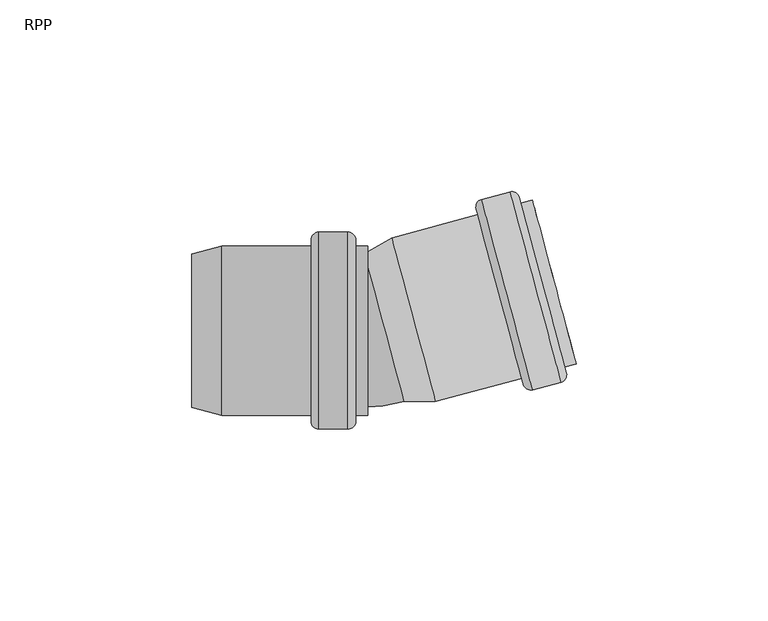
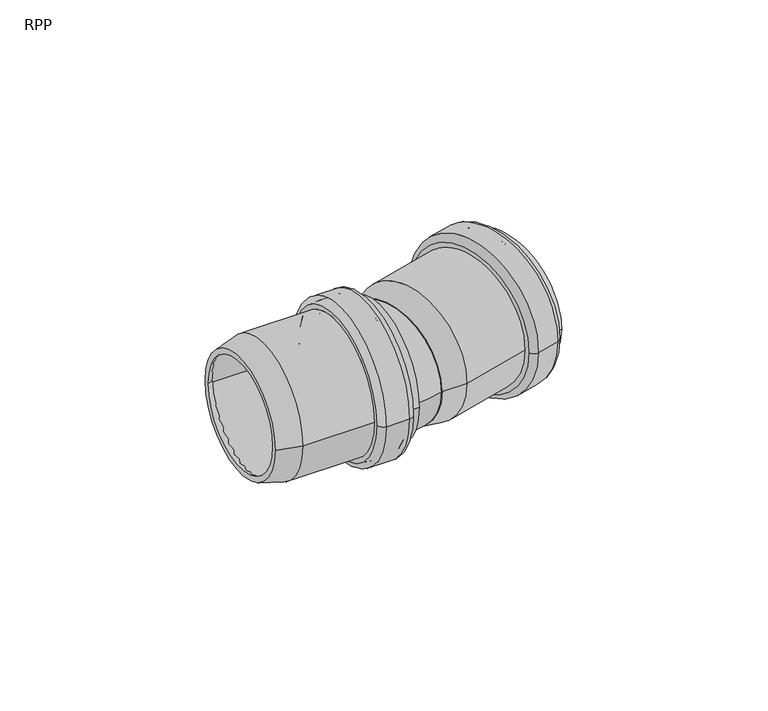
"""IFC4 building model written with IfcOpenShell, lengths in millimetres: pipe fitting geometry, RAUPIANO PLUS Bend : RPP."""

from ifc_helpers import new_model, si_unit, point, frame, origin, place, context, project, spatial, polyline, circle_curve, ellipse_curve, trimmed, source, transform, mapped, element, save
from ifc_brep_helpers import plane_surface, cylinder_surface, revolved_surface, advanced_brep


def rpp_0ef57ba2(model_context):
    return source(origin(), model_context, "Body", "AdvancedBrep", [
        advanced_brep(
        [(-14.2596599, -20.3, 0.0), (-14.2596599, 20.3, 0.0), (-39.0853788, 20.3, 0.0), (-39.0853788, -20.3, 0.0), (-13.7596599, -23.9, 0.0), (-13.7596599, 23.9, 0.0), (-14.2596599, 23.4, 0.0), (-14.2596599, -23.4, 0.0), (-6.7596599, -23.9, 0.0), (-6.7596599, 23.9, 0.0), (-6.2596599, -23.4, 0.0), (-6.2596599, 23.4, 0.0), (-1.3596599, -20.3, 0.0), (-1.3596599, 20.3, 0.0), (-6.2596599, 20.3, 0.0), (-6.2596599, -20.3, 0.0), (-4.4596599, -22.1, 0.0), (-4.4596599, 22.1, 0.0), (-1.3596599, 22.1, 0.0), (-1.3596599, -22.1, 0.0), (-6.4596599, -25.7, 0.0), (-6.4596599, 25.7, 0.0), (-4.4596599, 23.7, 0.0), (-4.4596599, -23.7, 0.0), (-14.0596599, -25.7, 0.0), (-14.0596599, 25.7, 0.0), (-16.0596599, -23.7, 0.0), (-16.0596599, 23.7, 0.0), (-39.3223532, -22.1, 0.0), (-39.3223532, 22.1, 0.0), (-16.0596599, 22.1, 0.0), (-16.0596599, -22.1, 0.0), (-47.1596599, -20.0, 0.0), (-47.1596599, 20.0, 0.0), (-47.1596599, 18.1365029, 0.0), (-47.1596599, -18.1365029, 0.0)],
        [
            (0, 1, circle_curve(frame((-14.2596599, 0.0, 0.0), z_axis=(1.0, 0.0, 0.0), x_axis=(0.0, 1.0, 0.0)), 20.3)),
            (1, 2),
            (2, 3, circle_curve(frame((-39.0853788, 0.0, 0.0), z_axis=(-1.0, 0.0, 0.0), x_axis=(0.0, 1.0, 0.0)), 20.3)),
            (3, 0),
            (4, 5, circle_curve(frame((-13.7596599, 0.0, 0.0), z_axis=(1.0, 0.0, 0.0), x_axis=(0.0, 1.0, 0.0)), 23.9)),
            (5, 6, circle_curve(frame((-13.7596599, 23.4, 0.0), z_axis=(0.0, 0.0, 1.0), x_axis=(0.0, -1.0, 0.0)), 0.5)),
            (6, 7, circle_curve(frame((-14.2596599, 0.0, 0.0), z_axis=(-1.0, 0.0, 0.0), x_axis=(0.0, 1.0, 0.0)), 23.4)),
            (7, 4, circle_curve(frame((-13.7596599, -23.4, 0.0), z_axis=(0.0, 0.0, 1.0), x_axis=(0.0, 1.0, 0.0)), 0.5)),
            (8, 9, circle_curve(frame((-6.7596599, 0.0, 0.0), z_axis=(1.0, 0.0, 0.0), x_axis=(0.0, 1.0, 0.0)), 23.9)),
            (9, 5),
            (4, 8),
            (10, 11, circle_curve(frame((-6.2596599, 0.0, 0.0), z_axis=(1.0, 0.0, 0.0), x_axis=(0.0, 1.0, 0.0)), 23.4)),
            (11, 9, circle_curve(frame((-6.7596599, 23.4, 0.0), z_axis=(0.0, 0.0, 1.0), x_axis=(0.0, -1.0, 0.0)), 0.5)),
            (8, 10, circle_curve(frame((-6.7596599, -23.4, 0.0), z_axis=(0.0, 0.0, 1.0), x_axis=(0.0, 1.0, 0.0)), 0.5)),
            (12, 13, circle_curve(frame((-1.3596599, 0.0, 0.0), z_axis=(1.0, 0.0, 0.0), x_axis=(0.0, 1.0, 0.0)), 20.3)),
            (13, 14),
            (14, 15, circle_curve(frame((-6.2596599, 0.0, 0.0), z_axis=(-1.0, 0.0, 0.0), x_axis=(0.0, 1.0, 0.0)), 20.3)),
            (15, 12),
            (16, 17, circle_curve(frame((-4.4596599, 0.0, 0.0), z_axis=(1.0, 0.0, 0.0), x_axis=(0.0, 1.0, 0.0)), 22.1)),
            (17, 18),
            (18, 19, circle_curve(frame((-1.3596599, 0.0, 0.0), z_axis=(-1.0, 0.0, 0.0), x_axis=(0.0, 1.0, 0.0)), 22.1)),
            (19, 16),
            (20, 21, circle_curve(frame((-6.4596599, 0.0, 0.0), z_axis=(1.0, 0.0, 0.0), x_axis=(0.0, 1.0, 0.0)), 25.7)),
            (21, 22, circle_curve(frame((-6.4596599, 23.7, 0.0), z_axis=(0.0, 0.0, -1.0), x_axis=(0.0, -1.0, 0.0)), 2.0)),
            (22, 23, circle_curve(frame((-4.4596599, 0.0, 0.0), z_axis=(-1.0, 0.0, 0.0), x_axis=(0.0, 1.0, 0.0)), 23.7)),
            (23, 20, circle_curve(frame((-6.4596599, -23.7, 0.0), z_axis=(0.0, 0.0, -1.0), x_axis=(0.0, 1.0, 0.0)), 2.0)),
            (24, 25, circle_curve(frame((-14.0596599, 0.0, 0.0), z_axis=(1.0, 0.0, 0.0), x_axis=(0.0, 1.0, 0.0)), 25.7)),
            (25, 21),
            (20, 24),
            (26, 27, circle_curve(frame((-16.0596599, 0.0, 0.0), z_axis=(1.0, 0.0, 0.0), x_axis=(0.0, 1.0, 0.0)), 23.7)),
            (27, 25, circle_curve(frame((-14.0596599, 23.7, 0.0), z_axis=(0.0, 0.0, -1.0), x_axis=(0.0, -1.0, 0.0)), 2.0)),
            (24, 26, circle_curve(frame((-14.0596599, -23.7, 0.0), z_axis=(0.0, 0.0, -1.0), x_axis=(0.0, 1.0, 0.0)), 2.0)),
            (28, 29, circle_curve(frame((-39.3223532, 0.0, 0.0), z_axis=(1.0, 0.0, 0.0), x_axis=(0.0, 1.0, 0.0)), 22.1)),
            (29, 30),
            (30, 31, circle_curve(frame((-16.0596599, 0.0, 0.0), z_axis=(-1.0, 0.0, 0.0), x_axis=(0.0, 1.0, 0.0)), 22.1)),
            (31, 28),
            (32, 33, circle_curve(frame((-47.1596599, 0.0, 0.0), z_axis=(1.0, 0.0, 0.0), x_axis=(0.0, 1.0, 0.0)), 20.0)),
            (33, 29),
            (28, 32),
            (2, 34),
            (34, 35, circle_curve(frame((-47.1596599, 0.0, 0.0), z_axis=(-1.0, 0.0, 0.0), x_axis=(0.0, 1.0, 0.0)), 18.1365029)),
            (35, 3),
            (1, 0, circle_curve(frame((-14.2596599, 0.0, 0.0), z_axis=(1.0, 0.0, 0.0), x_axis=(0.0, -1.0, 0.0)), 20.3)),
            (3, 2, circle_curve(frame((-39.0853788, 0.0, 0.0), z_axis=(-1.0, 0.0, 0.0), x_axis=(0.0, -1.0, 0.0)), 20.3)),
            (6, 7, circle_curve(frame((-14.2596599, 0.0, 0.0), z_axis=(1.0, 0.0, 0.0), x_axis=(0.0, -1.0, 0.0)), 23.4)),
            (5, 4, circle_curve(frame((-13.7596599, 0.0, 0.0), z_axis=(1.0, 0.0, 0.0), x_axis=(0.0, -1.0, 0.0)), 23.9)),
            (9, 8, circle_curve(frame((-6.7596599, 0.0, 0.0), z_axis=(1.0, 0.0, 0.0), x_axis=(0.0, -1.0, 0.0)), 23.9)),
            (11, 10, circle_curve(frame((-6.2596599, 0.0, 0.0), z_axis=(1.0, 0.0, 0.0), x_axis=(0.0, -1.0, 0.0)), 23.4)),
            (14, 15, circle_curve(frame((-6.2596599, 0.0, 0.0), z_axis=(1.0, 0.0, 0.0), x_axis=(0.0, -1.0, 0.0)), 20.3)),
            (13, 12, circle_curve(frame((-1.3596599, 0.0, 0.0), z_axis=(1.0, 0.0, 0.0), x_axis=(0.0, -1.0, 0.0)), 20.3)),
            (18, 19, circle_curve(frame((-1.3596599, 0.0, 0.0), z_axis=(1.0, 0.0, 0.0), x_axis=(0.0, -1.0, 0.0)), 22.1)),
            (17, 16, circle_curve(frame((-4.4596599, 0.0, 0.0), z_axis=(1.0, 0.0, 0.0), x_axis=(0.0, -1.0, 0.0)), 22.1)),
            (22, 23, circle_curve(frame((-4.4596599, 0.0, 0.0), z_axis=(1.0, 0.0, 0.0), x_axis=(0.0, -1.0, 0.0)), 23.7)),
            (21, 20, circle_curve(frame((-6.4596599, 0.0, 0.0), z_axis=(1.0, 0.0, 0.0), x_axis=(0.0, -1.0, 0.0)), 25.7)),
            (25, 24, circle_curve(frame((-14.0596599, 0.0, 0.0), z_axis=(1.0, 0.0, 0.0), x_axis=(0.0, -1.0, 0.0)), 25.7)),
            (27, 26, circle_curve(frame((-16.0596599, 0.0, 0.0), z_axis=(1.0, 0.0, 0.0), x_axis=(0.0, -1.0, 0.0)), 23.7)),
            (30, 31, circle_curve(frame((-16.0596599, 0.0, 0.0), z_axis=(1.0, 0.0, 0.0), x_axis=(0.0, -1.0, 0.0)), 22.1)),
            (29, 28, circle_curve(frame((-39.3223532, 0.0, 0.0), z_axis=(1.0, 0.0, 0.0), x_axis=(0.0, -1.0, 0.0)), 22.1)),
            (33, 32, circle_curve(frame((-47.1596599, 0.0, 0.0), z_axis=(1.0, 0.0, 0.0), x_axis=(0.0, -1.0, 0.0)), 20.0)),
            (34, 35, circle_curve(frame((-47.1596599, 0.0, 0.0), z_axis=(1.0, 0.0, 0.0), x_axis=(0.0, -1.0, 0.0)), 18.1365029)),
        ],
        [
            revolved_surface(polyline([(-39.0853788, 20.3, 0.0), (-14.259659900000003, 20.3, 0.0)]), (-47.1596599, 0.0, 0.0), (-1.0, 0.0, 0.0)),
            revolved_surface(trimmed(ellipse_curve(frame((-13.7596599, 23.4, 0.0), z_axis=(0.0, 0.0, -1.0), x_axis=(0.0, -1.0, 0.0)), 0.5, 0.5), [point((-14.2596599, 23.4, 0.0))], [point((-13.7596599, 23.9, 0.0))], True, "CARTESIAN"), (-47.1596599, 0.0, 0.0), (-1.0, 0.0, 0.0)),
            revolved_surface(polyline([(-13.759659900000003, 23.9, 0.0), (-6.759659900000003, 23.9, 0.0)]), (-47.1596599, 0.0, 0.0), (-1.0, 0.0, 0.0)),
            revolved_surface(trimmed(ellipse_curve(frame((-6.7596599, 23.4, 0.0), z_axis=(0.0, 0.0, -1.0), x_axis=(0.0, -1.0, 0.0)), 0.5, 0.5), [point((-6.7596599, 23.9, 0.0))], [point((-6.2596599, 23.4, 0.0))], True, "CARTESIAN"), (-47.1596599, 0.0, 0.0), (-1.0, 0.0, 0.0)),
            revolved_surface(polyline([(-6.259659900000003, 20.3, 0.0), (-1.359659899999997, 20.3, 0.0)]), (-47.1596599, 0.0, 0.0), (-1.0, 0.0, 0.0)),
            cylinder_surface(frame((-47.1596599, 0.0, 0.0), z_axis=(-1.0, 0.0, 0.0), x_axis=(0.0, 1.0, 0.0)), 22.1),
            revolved_surface(trimmed(ellipse_curve(frame((-6.4596599, 23.7, 0.0), z_axis=(0.0, 0.0, 1.0), x_axis=(0.0, -1.0, 0.0)), 2.0, 2.0), [point((-4.4596599, 23.7, 0.0))], [point((-6.4596599, 25.7, 0.0))], True, "CARTESIAN"), (-47.1596599, 0.0, 0.0), (-1.0, 0.0, 0.0)),
            cylinder_surface(frame((-47.1596599, 0.0, 0.0), z_axis=(-1.0, 0.0, 0.0), x_axis=(0.0, 1.0, 0.0)), 25.7),
            revolved_surface(trimmed(ellipse_curve(frame((-14.0596599, 23.7, 0.0), z_axis=(0.0, 0.0, 1.0), x_axis=(0.0, -1.0, 0.0)), 2.0, 2.0), [point((-14.0596599, 25.7, 0.0))], [point((-16.0596599, 23.7, 0.0))], True, "CARTESIAN"), (-47.1596599, 0.0, 0.0), (-1.0, 0.0, 0.0)),
            revolved_surface(polyline([(-39.3223532, 22.1, 0.0), (-47.1596599, 20.0, 0.0)]), (-47.1596599, 0.0, 0.0), (-1.0, 0.0, 0.0)),
            revolved_surface(polyline([(-47.1596599, 18.1365029, 0.0), (-39.0853788, 20.3, 0.0)]), (-47.1596599, 0.0, 0.0), (-1.0, 0.0, 0.0)),
            revolved_surface(polyline([(-39.0853788, -20.3, 0.0), (-14.259659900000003, -20.3, 0.0)]), (-47.1596599, 0.0, 0.0), (-1.0, 0.0, 0.0)),
            plane_surface(frame((-14.2596599, 0.0, 0.0), z_axis=(1.0, 0.0, 0.0), x_axis=(0.0, -1.0, 0.0))),
            revolved_surface(trimmed(ellipse_curve(frame((-13.7596599, -23.4, 0.0), z_axis=(0.0, 0.0, 1.0), x_axis=(0.0, 1.0, 0.0)), 0.5, 0.5), [point((-14.2596599, -23.4, 0.0))], [point((-13.7596599, -23.9, 0.0))], True, "CARTESIAN"), (-47.1596599, 0.0, 0.0), (-1.0, 0.0, 0.0)),
            revolved_surface(polyline([(-13.759659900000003, -23.9, 0.0), (-6.759659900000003, -23.9, 0.0)]), (-47.1596599, 0.0, 0.0), (-1.0, 0.0, 0.0)),
            revolved_surface(trimmed(ellipse_curve(frame((-6.7596599, -23.4, 0.0), z_axis=(0.0, 0.0, 1.0), x_axis=(0.0, 1.0, 0.0)), 0.5, 0.5), [point((-6.7596599, -23.9, 0.0))], [point((-6.2596599, -23.4, 0.0))], True, "CARTESIAN"), (-47.1596599, 0.0, 0.0), (-1.0, 0.0, 0.0)),
            plane_surface(frame((-6.2596599, 0.0, 0.0), z_axis=(-1.0, 0.0, 0.0), x_axis=(0.0, -1.0, 0.0))),
            revolved_surface(polyline([(-6.259659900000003, -20.3, 0.0), (-1.359659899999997, -20.3, 0.0)]), (-47.1596599, 0.0, 0.0), (-1.0, 0.0, 0.0)),
            plane_surface(frame((-1.3596599, 0.0, 0.0), z_axis=(1.0, 0.0, 0.0), x_axis=(0.0, -1.0, 0.0))),
            cylinder_surface(frame((-47.1596599, 0.0, 0.0), z_axis=(-1.0, 0.0, 0.0), x_axis=(0.0, -1.0, 0.0)), 22.1),
            plane_surface(frame((-4.4596599, 0.0, 0.0), z_axis=(1.0, 0.0, 0.0), x_axis=(0.0, -1.0, 0.0))),
            revolved_surface(trimmed(ellipse_curve(frame((-6.4596599, -23.7, 0.0), z_axis=(0.0, 0.0, -1.0), x_axis=(0.0, 1.0, 0.0)), 2.0, 2.0), [point((-4.4596599, -23.7, 0.0))], [point((-6.4596599, -25.7, 0.0))], True, "CARTESIAN"), (-47.1596599, 0.0, 0.0), (-1.0, 0.0, 0.0)),
            cylinder_surface(frame((-47.1596599, 0.0, 0.0), z_axis=(-1.0, 0.0, 0.0), x_axis=(0.0, -1.0, 0.0)), 25.7),
            revolved_surface(trimmed(ellipse_curve(frame((-14.0596599, -23.7, 0.0), z_axis=(0.0, 0.0, -1.0), x_axis=(0.0, 1.0, 0.0)), 2.0, 2.0), [point((-14.0596599, -25.7, 0.0))], [point((-16.0596599, -23.7, 0.0))], True, "CARTESIAN"), (-47.1596599, 0.0, 0.0), (-1.0, 0.0, 0.0)),
            plane_surface(frame((-16.0596599, 0.0, 0.0), z_axis=(-1.0, 0.0, 0.0), x_axis=(0.0, -1.0, 0.0))),
            revolved_surface(polyline([(-39.3223532, -22.1, 0.0), (-47.1596599, -20.0, 0.0)]), (-47.1596599, 0.0, 0.0), (-1.0, 0.0, 0.0)),
            plane_surface(frame((-47.1596599, 0.0, 0.0), z_axis=(-1.0, 0.0, 0.0), x_axis=(0.0, -1.0, 0.0))),
            revolved_surface(polyline([(-47.1596599, -18.1365029, 0.0), (-39.0853788, -20.3, 0.0)]), (-47.1596599, 0.0, 0.0), (-1.0, 0.0, 0.0)),
        ],
        [
            (0, [[1, 2, 3, 4]]),
            (1, [[5, 6, 7, 8]]),
            (2, [[9, 10, -5, 11]]),
            (3, [[12, 13, -9, 14]]),
            (4, [[15, 16, 17, 18]]),
            (5, [[19, 20, 21, 22]]),
            (6, [[23, 24, 25, 26]]),
            (7, [[27, 28, -23, 29]]),
            (8, [[30, 31, -27, 32]]),
            (5, [[33, 34, 35, 36]]),
            (9, [[37, 38, -33, 39]]),
            (10, [[-3, 40, 41, 42]]),
            (11, [[43, -4, 44, -2]]),
            (12, [[45, -7], [-43, -1]]),
            (13, [[46, -8, -45, -6]]),
            (14, [[47, -11, -46, -10]]),
            (15, [[48, -14, -47, -13]]),
            (16, [[-48, -12], [49, -17]]),
            (17, [[50, -18, -49, -16]]),
            (18, [[51, -21], [-50, -15]]),
            (19, [[52, -22, -51, -20]]),
            (20, [[53, -25], [-52, -19]]),
            (21, [[54, -26, -53, -24]]),
            (22, [[55, -29, -54, -28]]),
            (23, [[56, -32, -55, -31]]),
            (24, [[-56, -30], [57, -35]]),
            (19, [[58, -36, -57, -34]]),
            (25, [[59, -39, -58, -38]]),
            (26, [[-59, -37], [60, -41]]),
            (27, [[-44, -42, -60, -40]]),
        ],
    ),
        advanced_brep(
        [(7.7460695, -16.7007364, 0.0), (-1.6420752, 18.3362967, 0.0), (5.5971273, 22.5158522, 0.0), (16.1051805, -16.7007364, 0.0), (16.342155, -18.5007364, 0.0), (4.9023532, 24.1931852, 0.0), (-2.1243838, 20.1362967, 0.0), (8.228378, -18.5007364, 0.0), (38.8121912, -12.4799083, 0.0), (27.3723894, 30.2140132, 0.0), (49.0168277, -13.4725784, 0.0), (35.7135288, 36.176009, 0.0), (28.3724925, 34.2089843, 0.0), (41.6757914, -15.4396032, 0.0), (53.0113009, -8.6752683, 0.0), (41.5714991, 34.0186532, 0.0), (38.577129, 33.2163142, 0.0), (50.0169308, -9.4776074, 0.0), (47.8123901, -8.2048152, 0.0), (37.3043368, 31.0117734, 0.0), (42.0373734, 32.2799867, 0.0), (52.5454266, -6.9366018, 0.0), (41.4996949, -13.623291, 0.0), (29.1281446, 32.5479635, 0.0), (35.8896253, 34.3596968, 0.0), (48.2611757, -11.8115577, 0.0), (29.5769302, 28.941221, 0.0), (40.0849834, -10.2753675, 0.0), (26.958279, 31.7594946, 0.0), (39.2263017, -14.0253896, 0.0), (50.4310413, -11.0230887, 0.0), (38.1630186, 34.7617955, 0.0), (36.5019978, 34.0061434, 0.0), (48.6147291, -11.1991852, 0.0), (40.8873225, -13.2697376, 0.0), (28.7745912, 31.9355911, 0.0)],
        [
            (0, 1, circle_curve(frame((3.0519971, 0.8177802, 0.0), z_axis=(-0.965925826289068, -0.25881904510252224, 0.0), x_axis=(-0.25881904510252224, 0.965925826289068, 0.0)), 18.1365029)),
            (1, 2),
            (2, 3, circle_curve(frame((10.8511539, 2.9075579, 0.0), z_axis=(0.965925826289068, 0.25881904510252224, 0.0), x_axis=(-0.25881904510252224, 0.965925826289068, 0.0)), 20.3)),
            (3, 0),
            (4, 5, circle_curve(frame((10.6222541, 2.8462244, 0.0), z_axis=(-0.965925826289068, -0.25881904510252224, 0.0), x_axis=(-0.25881904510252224, 0.965925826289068, 0.0)), 22.1)),
            (5, 6),
            (6, 7, circle_curve(frame((3.0519971, 0.8177802, 0.0), z_axis=(0.965925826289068, 0.25881904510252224, 0.0), x_axis=(-0.25881904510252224, 0.965925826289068, 0.0)), 20.0)),
            (7, 4),
            (8, 9, circle_curve(frame((33.0922903, 8.8670525, 0.0), z_axis=(-0.965925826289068, -0.25881904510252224, 0.0), x_axis=(-0.25881904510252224, 0.965925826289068, 0.0)), 22.1)),
            (9, 5),
            (4, 8),
            (10, 11, circle_curve(frame((42.3651783, 11.3517153, 0.0), z_axis=(-0.965925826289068, -0.25881904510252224, 0.0), x_axis=(-0.25881904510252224, 0.965925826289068, 0.0)), 25.7)),
            (11, 12),
            (12, 13, circle_curve(frame((35.024142, 9.3846906, 0.0), z_axis=(0.965925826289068, 0.25881904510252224, 0.0), x_axis=(-0.25881904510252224, 0.965925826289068, 0.0)), 25.7)),
            (13, 10),
            (14, 15, circle_curve(frame((47.2914, 12.6716924, 0.0), z_axis=(-0.965925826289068, -0.25881904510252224, 0.0), x_axis=(-0.25881904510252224, 0.965925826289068, 0.0)), 22.1)),
            (15, 16),
            (16, 17, circle_curve(frame((44.2970299, 11.8693534, 0.0), z_axis=(0.965925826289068, 0.25881904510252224, 0.0), x_axis=(-0.25881904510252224, 0.965925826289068, 0.0)), 22.1)),
            (17, 14),
            (18, 19, circle_curve(frame((42.5583634, 11.4034791, 0.0), z_axis=(-0.965925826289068, -0.25881904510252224, 0.0), x_axis=(-0.25881904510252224, 0.965925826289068, 0.0)), 20.3)),
            (19, 20),
            (20, 21, circle_curve(frame((47.2914, 12.6716924, 0.0), z_axis=(0.965925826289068, 0.25881904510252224, 0.0), x_axis=(-0.25881904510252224, 0.965925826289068, 0.0)), 20.3)),
            (21, 18),
            (22, 23, circle_curve(frame((35.3139197, 9.4623363, 0.0), z_axis=(-0.965925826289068, -0.25881904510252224, 0.0), x_axis=(-0.25881904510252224, 0.965925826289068, 0.0)), 23.9)),
            (23, 24),
            (24, 25, circle_curve(frame((42.0754005, 11.2740696, 0.0), z_axis=(0.965925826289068, 0.25881904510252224, 0.0), x_axis=(-0.25881904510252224, 0.965925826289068, 0.0)), 23.9)),
            (25, 22),
            (2, 26),
            (26, 27, circle_curve(frame((34.8309568, 9.3329268, 0.0), z_axis=(0.965925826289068, 0.25881904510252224, 0.0), x_axis=(-0.25881904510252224, 0.965925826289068, 0.0)), 20.3)),
            (27, 3),
            (1, 0, circle_curve(frame((3.0519971, 0.8177802, 0.0), z_axis=(-0.965925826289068, -0.25881904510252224, 0.0), x_axis=(0.25881904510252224, -0.965925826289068, 0.0)), 18.1365029)),
            (3, 2, circle_curve(frame((10.8511539, 2.9075579, 0.0), z_axis=(0.965925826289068, 0.25881904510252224, 0.0), x_axis=(0.25881904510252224, -0.965925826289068, 0.0)), 20.3)),
            (6, 7, circle_curve(frame((3.0519971, 0.8177802, 0.0), z_axis=(-0.965925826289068, -0.25881904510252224, 0.0), x_axis=(0.25881904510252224, -0.965925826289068, 0.0)), 20.0)),
            (5, 4, circle_curve(frame((10.6222541, 2.8462244, 0.0), z_axis=(-0.965925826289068, -0.25881904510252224, 0.0), x_axis=(0.25881904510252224, -0.965925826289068, 0.0)), 22.1)),
            (9, 8, circle_curve(frame((33.0922903, 8.8670525, 0.0), z_axis=(-0.965925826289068, -0.25881904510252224, 0.0), x_axis=(0.25881904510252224, -0.965925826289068, 0.0)), 22.1)),
            (28, 29, circle_curve(frame((33.0922903, 8.8670525, 0.0), z_axis=(-0.965925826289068, -0.25881904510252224, 0.0), x_axis=(0.25881904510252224, -0.965925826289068, 0.0)), 23.7)),
            (29, 28, circle_curve(frame((33.0922903, 8.8670525, 0.0), z_axis=(-0.965925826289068, -0.25881904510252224, 0.0), x_axis=(-0.25881904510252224, 0.965925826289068, 0.0)), 23.7)),
            (11, 10, circle_curve(frame((42.3651783, 11.3517153, 0.0), z_axis=(-0.965925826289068, -0.25881904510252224, 0.0), x_axis=(0.25881904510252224, -0.965925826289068, 0.0)), 25.7)),
            (13, 12, circle_curve(frame((35.024142, 9.3846906, 0.0), z_axis=(0.965925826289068, 0.25881904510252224, 0.0), x_axis=(0.25881904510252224, -0.965925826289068, 0.0)), 25.7)),
            (30, 31, circle_curve(frame((44.2970299, 11.8693534, 0.0), z_axis=(0.965925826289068, 0.25881904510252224, 0.0), x_axis=(0.25881904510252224, -0.965925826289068, 0.0)), 23.7)),
            (31, 30, circle_curve(frame((44.2970299, 11.8693534, 0.0), z_axis=(0.965925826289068, 0.25881904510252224, 0.0), x_axis=(-0.25881904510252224, 0.965925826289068, 0.0)), 23.7)),
            (16, 17, circle_curve(frame((44.2970299, 11.8693534, 0.0), z_axis=(-0.965925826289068, -0.25881904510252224, 0.0), x_axis=(0.25881904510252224, -0.965925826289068, 0.0)), 22.1)),
            (15, 14, circle_curve(frame((47.2914, 12.6716924, 0.0), z_axis=(-0.965925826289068, -0.25881904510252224, 0.0), x_axis=(0.25881904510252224, -0.965925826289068, 0.0)), 22.1)),
            (20, 21, circle_curve(frame((47.2914, 12.6716924, 0.0), z_axis=(-0.965925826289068, -0.25881904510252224, 0.0), x_axis=(0.25881904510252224, -0.965925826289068, 0.0)), 20.3)),
            (19, 18, circle_curve(frame((42.5583634, 11.4034791, 0.0), z_axis=(-0.965925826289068, -0.25881904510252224, 0.0), x_axis=(0.25881904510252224, -0.965925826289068, 0.0)), 20.3)),
            (32, 33, circle_curve(frame((42.5583634, 11.4034791, 0.0), z_axis=(-0.965925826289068, -0.25881904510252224, 0.0), x_axis=(0.25881904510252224, -0.965925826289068, 0.0)), 23.4)),
            (33, 32, circle_curve(frame((42.5583634, 11.4034791, 0.0), z_axis=(-0.965925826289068, -0.25881904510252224, 0.0), x_axis=(-0.25881904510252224, 0.965925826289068, 0.0)), 23.4)),
            (23, 22, circle_curve(frame((35.3139197, 9.4623363, 0.0), z_axis=(-0.965925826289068, -0.25881904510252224, 0.0), x_axis=(0.25881904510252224, -0.965925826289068, 0.0)), 23.9)),
            (25, 24, circle_curve(frame((42.0754005, 11.2740696, 0.0), z_axis=(0.965925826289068, 0.25881904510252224, 0.0), x_axis=(0.25881904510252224, -0.965925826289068, 0.0)), 23.9)),
            (34, 35, circle_curve(frame((34.8309568, 9.3329268, 0.0), z_axis=(0.965925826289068, 0.25881904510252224, 0.0), x_axis=(0.25881904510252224, -0.965925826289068, 0.0)), 23.4)),
            (35, 34, circle_curve(frame((34.8309568, 9.3329268, 0.0), z_axis=(0.965925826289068, 0.25881904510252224, 0.0), x_axis=(-0.25881904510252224, 0.965925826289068, 0.0)), 23.4)),
            (26, 27, circle_curve(frame((34.8309568, 9.3329268, 0.0), z_axis=(-0.965925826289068, -0.25881904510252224, 0.0), x_axis=(0.25881904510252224, -0.965925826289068, 0.0)), 20.3)),
            (12, 28, circle_curve(frame((28.8901306, 32.2771326, 0.0), z_axis=(0.0, 0.0, 1.0000000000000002), x_axis=(0.25881904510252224, -0.965925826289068, 0.0)), 2.0)),
            (29, 13, circle_curve(frame((41.1581534, -13.5077515, 0.0), z_axis=(0.0, 0.0, 1.0000000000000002), x_axis=(-0.25881904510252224, 0.965925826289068, 0.0)), 2.0)),
            (31, 11, circle_curve(frame((36.2311669, 34.2441574, 0.0), z_axis=(0.0, 0.0, 1.0000000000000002), x_axis=(0.25881904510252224, -0.965925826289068, 0.0)), 2.0)),
            (10, 30, circle_curve(frame((48.4991896, -11.5407268, 0.0), z_axis=(0.0, 0.0, 1.0000000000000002), x_axis=(-0.25881904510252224, 0.965925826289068, 0.0)), 2.0)),
            (24, 32, circle_curve(frame((36.0190349, 33.8767339, 0.0), z_axis=(0.0, 0.0, -1.0000000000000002), x_axis=(0.25881904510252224, -0.965925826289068, 0.0)), 0.5)),
            (33, 25, circle_curve(frame((48.1317662, -11.3285947, 0.0), z_axis=(0.0, 0.0, -1.0000000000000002), x_axis=(-0.25881904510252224, 0.965925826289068, 0.0)), 0.5)),
            (35, 23, circle_curve(frame((29.2575541, 32.0650006, 0.0), z_axis=(0.0, 0.0, -1.0000000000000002), x_axis=(0.25881904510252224, -0.965925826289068, 0.0)), 0.5)),
            (22, 34, circle_curve(frame((41.3702854, -13.1403281, 0.0), z_axis=(0.0, 0.0, -1.0000000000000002), x_axis=(-0.25881904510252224, 0.965925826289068, 0.0)), 0.5)),
        ],
        [
            revolved_surface(polyline([(5.5971273, 22.5158522, 0.0), (-1.6420752, 18.3362967, 0.0)]), (3.0519971, 0.8177802, 0.0), (0.965925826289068, 0.25881904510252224, 0.0)),
            revolved_surface(polyline([(-2.1243838, 20.1362967, 0.0), (4.9023532, 24.1931852, 0.0)]), (3.0519971, 0.8177802, 0.0), (0.965925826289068, 0.25881904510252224, 0.0)),
            cylinder_surface(frame((3.0519971, 0.8177802, 0.0), z_axis=(0.965925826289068, 0.25881904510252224, 0.0), x_axis=(-0.25881904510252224, 0.965925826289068, 0.0)), 22.1),
            cylinder_surface(frame((3.0519971, 0.8177802, 0.0), z_axis=(0.965925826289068, 0.25881904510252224, 0.0), x_axis=(-0.25881904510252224, 0.965925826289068, 0.0)), 25.7),
            revolved_surface(polyline([(42.037373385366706, 32.27998675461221, 0.0), (37.3043367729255, 31.011773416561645, 0.0)]), (3.0519971, 0.8177802, 0.0), (0.965925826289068, 0.25881904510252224, 0.0)),
            revolved_surface(polyline([(35.889625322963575, 34.35969687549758, 0.0), (29.128144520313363, 32.54796355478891, 0.0)]), (3.0519971, 0.8177802, 0.0), (0.965925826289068, 0.25881904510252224, 0.0)),
            revolved_surface(polyline([(29.576930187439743, 28.941221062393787, 0.0), (5.59712724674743, 22.515852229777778, 0.0)]), (3.0519971, 0.8177802, 0.0), (0.965925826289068, 0.25881904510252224, 0.0)),
            revolved_surface(polyline([(16.1051805, -16.7007364, 0.0), (7.7460695, -16.7007364, 0.0)]), (3.0519971, 0.8177802, 0.0), (0.965925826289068, 0.25881904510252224, 0.0)),
            plane_surface(frame((3.0519971, 0.8177802, 0.0), z_axis=(-0.965925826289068, -0.25881904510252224, 0.0), x_axis=(0.25881904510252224, -0.965925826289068, 0.0))),
            revolved_surface(polyline([(8.228378, -18.5007364, 0.0), (16.342155, -18.5007364, 0.0)]), (3.0519971, 0.8177802, 0.0), (0.965925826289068, 0.25881904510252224, 0.0)),
            cylinder_surface(frame((3.0519971, 0.8177802, 0.0), z_axis=(0.965925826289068, 0.25881904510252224, 0.0), x_axis=(0.25881904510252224, -0.965925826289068, 0.0)), 22.1),
            plane_surface(frame((33.0922903, 8.8670525, 0.0), z_axis=(-0.965925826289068, -0.25881904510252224, 0.0), x_axis=(0.25881904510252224, -0.965925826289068, 0.0))),
            cylinder_surface(frame((3.0519971, 0.8177802, 0.0), z_axis=(0.965925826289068, 0.25881904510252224, 0.0), x_axis=(0.25881904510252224, -0.965925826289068, 0.0)), 25.7),
            plane_surface(frame((44.2970299, 11.8693534, 0.0), z_axis=(0.965925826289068, 0.25881904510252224, 0.0), x_axis=(0.25881904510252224, -0.965925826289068, 0.0))),
            plane_surface(frame((47.2914, 12.6716924, 0.0), z_axis=(0.965925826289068, 0.25881904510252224, 0.0), x_axis=(0.25881904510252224, -0.965925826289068, 0.0))),
            revolved_surface(polyline([(52.54542661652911, -6.936601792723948, 0.0), (47.8123900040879, -8.204815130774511, 0.0)]), (3.0519971, 0.8177802, 0.0), (0.965925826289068, 0.25881904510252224, 0.0)),
            plane_surface(frame((42.5583634, 11.4034791, 0.0), z_axis=(-0.965925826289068, -0.25881904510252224, 0.0), x_axis=(0.25881904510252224, -0.965925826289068, 0.0))),
            revolved_surface(polyline([(48.261175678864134, -11.811557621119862, 0.0), (41.49969487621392, -13.623290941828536, 0.0)]), (3.0519971, 0.8177802, 0.0), (0.965925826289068, 0.25881904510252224, 0.0)),
            plane_surface(frame((34.8309568, 9.3329268, 0.0), z_axis=(0.965925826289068, 0.25881904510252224, 0.0), x_axis=(0.25881904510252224, -0.965925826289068, 0.0))),
            revolved_surface(polyline([(40.08498341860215, -10.275367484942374, 0.0), (16.105180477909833, -16.70073631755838, 0.0)]), (3.0519971, 0.8177802, 0.0), (0.965925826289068, 0.25881904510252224, 0.0)),
            revolved_surface(trimmed(ellipse_curve(frame((28.8901306, 32.2771326, 0.0), z_axis=(0.0, 0.0, -1.0000000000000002), x_axis=(0.25881904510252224, -0.965925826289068, 0.0)), 2.0, 2.0), [point((26.958279, 31.7594946, 0.0))], [point((28.3724925, 34.2089843, 0.0))], True, "CARTESIAN"), (3.0519971, 0.8177802, 0.0), (0.965925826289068, 0.25881904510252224, 0.0)),
            revolved_surface(trimmed(ellipse_curve(frame((36.2311669, 34.2441574, 0.0), z_axis=(0.0, 0.0, -1.0000000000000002), x_axis=(0.25881904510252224, -0.965925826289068, 0.0)), 2.0, 2.0), [point((35.7135288, 36.176009, 0.0))], [point((38.1630186, 34.7617955, 0.0))], True, "CARTESIAN"), (3.0519971, 0.8177802, 0.0), (0.965925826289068, 0.25881904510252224, 0.0)),
            revolved_surface(trimmed(ellipse_curve(frame((36.0190349, 33.8767339, 0.0), z_axis=(0.0, 0.0, 1.0000000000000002), x_axis=(0.25881904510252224, -0.965925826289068, 0.0)), 0.5, 0.5), [point((36.5019978, 34.0061434, 0.0))], [point((35.8896253, 34.3596968, 0.0))], True, "CARTESIAN"), (3.0519971, 0.8177802, 0.0), (0.965925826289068, 0.25881904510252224, 0.0)),
            revolved_surface(trimmed(ellipse_curve(frame((29.2575541, 32.0650006, 0.0), z_axis=(0.0, 0.0, 1.0000000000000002), x_axis=(0.25881904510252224, -0.965925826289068, 0.0)), 0.5, 0.5), [point((29.1281446, 32.5479635, 0.0))], [point((28.7745912, 31.9355911, 0.0))], True, "CARTESIAN"), (3.0519971, 0.8177802, 0.0), (0.965925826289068, 0.25881904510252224, 0.0)),
            revolved_surface(trimmed(ellipse_curve(frame((41.1581534, -13.5077515, 0.0), z_axis=(0.0, 0.0, 1.0000000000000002), x_axis=(-0.2588190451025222, 0.965925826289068, 0.0)), 2.0, 2.0), [point((39.2263017, -14.0253896, 0.0))], [point((41.6757914, -15.4396032, 0.0))], True, "CARTESIAN"), (3.0519971, 0.8177802, 0.0), (0.965925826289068, 0.25881904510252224, 0.0)),
            revolved_surface(trimmed(ellipse_curve(frame((48.4991896, -11.5407268, 0.0), z_axis=(0.0, 0.0, 1.0000000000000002), x_axis=(-0.2588190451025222, 0.965925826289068, 0.0)), 2.0, 2.0), [point((49.0168277, -13.4725784, 0.0))], [point((50.4310413, -11.0230887, 0.0))], True, "CARTESIAN"), (3.0519971, 0.8177802, 0.0), (0.965925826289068, 0.25881904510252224, 0.0)),
            revolved_surface(trimmed(ellipse_curve(frame((48.1317662, -11.3285947, 0.0), z_axis=(0.0, 0.0, -1.0000000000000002), x_axis=(-0.2588190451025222, 0.965925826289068, 0.0)), 0.5, 0.5), [point((48.6147291, -11.1991852, 0.0))], [point((48.2611757, -11.8115577, 0.0))], True, "CARTESIAN"), (3.0519971, 0.8177802, 0.0), (0.965925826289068, 0.25881904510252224, 0.0)),
            revolved_surface(trimmed(ellipse_curve(frame((41.3702854, -13.1403281, 0.0), z_axis=(0.0, 0.0, -1.0000000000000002), x_axis=(-0.2588190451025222, 0.965925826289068, 0.0)), 0.5, 0.5), [point((41.4996949, -13.623291, 0.0))], [point((40.8873225, -13.2697376, 0.0))], True, "CARTESIAN"), (3.0519971, 0.8177802, 0.0), (0.965925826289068, 0.25881904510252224, 0.0)),
        ],
        [
            (0, [[1, 2, 3, 4]]),
            (1, [[5, 6, 7, 8]]),
            (2, [[9, 10, -5, 11]]),
            (3, [[12, 13, 14, 15]]),
            (2, [[16, 17, 18, 19]]),
            (4, [[20, 21, 22, 23]]),
            (5, [[24, 25, 26, 27]]),
            (6, [[-3, 28, 29, 30]]),
            (7, [[31, -4, 32, -2]]),
            (8, [[33, -7], [-31, -1]]),
            (9, [[34, -8, -33, -6]]),
            (10, [[35, -11, -34, -10]]),
            (11, [[36, 37], [-35, -9]]),
            (12, [[38, -15, 39, -13]]),
            (13, [[40, 41], [42, -18]]),
            (10, [[43, -19, -42, -17]]),
            (14, [[-43, -16], [44, -22]]),
            (15, [[45, -23, -44, -21]]),
            (16, [[46, 47], [-45, -20]]),
            (17, [[48, -27, 49, -25]]),
            (18, [[50, 51], [52, -29]]),
            (19, [[-32, -30, -52, -28]]),
            (20, [[-14, 53, -37, 54]]),
            (21, [[-41, 55, -12, 56]]),
            (22, [[-26, 57, -47, 58]]),
            (23, [[-51, 59, -24, 60]]),
            (24, [[-39, -54, -36, -53]]),
            (25, [[-40, -56, -38, -55]]),
            (26, [[-49, -58, -46, -57]]),
            (27, [[-50, -60, -48, -59]]),
        ],
    ),
        advanced_brep(
        [(-3.1596599, 18.2, 0.0), (-3.1596599, -18.2, 0.0), (-47.1596599, -18.2, 0.0), (-47.1596599, 18.2, 0.0), (-43.4276091, 20.0, 0.0), (-43.4276091, -20.0, 0.0), (-3.1596599, -20.0, 0.0), (-3.1596599, 20.0, 0.0), (-47.1596599, 19.0, 0.0), (-47.1596599, -19.0, 0.0)],
        [
            (0, 1, circle_curve(frame((-3.1596599, 0.0, 0.0), z_axis=(1.0, 0.0, 0.0), x_axis=(0.0, -1.0, 0.0)), 18.2)),
            (1, 2),
            (2, 3, circle_curve(frame((-47.1596599, 0.0, 0.0), z_axis=(-1.0, 0.0, 0.0), x_axis=(0.0, -1.0, 0.0)), 18.2)),
            (3, 0),
            (4, 5, circle_curve(frame((-43.4276091, 0.0, 0.0), z_axis=(1.0, 0.0, 0.0), x_axis=(0.0, -1.0, 0.0)), 20.0)),
            (5, 6),
            (6, 7, circle_curve(frame((-3.1596599, 0.0, 0.0), z_axis=(-1.0, 0.0, 0.0), x_axis=(0.0, -1.0, 0.0)), 20.0)),
            (7, 4),
            (8, 9, circle_curve(frame((-47.1596599, 0.0, 0.0), z_axis=(1.0, 0.0, 0.0), x_axis=(0.0, -1.0, 0.0)), 19.0)),
            (9, 5),
            (4, 8),
            (1, 0, circle_curve(frame((-3.1596599, 0.0, 0.0), z_axis=(1.0, 0.0, 0.0), x_axis=(0.0, 1.0, 0.0)), 18.2)),
            (3, 2, circle_curve(frame((-47.1596599, 0.0, 0.0), z_axis=(-1.0, 0.0, 0.0), x_axis=(0.0, 1.0, 0.0)), 18.2)),
            (6, 7, circle_curve(frame((-3.1596599, 0.0, 0.0), z_axis=(1.0, 0.0, 0.0), x_axis=(0.0, 1.0, 0.0)), 20.0)),
            (5, 4, circle_curve(frame((-43.4276091, 0.0, 0.0), z_axis=(1.0, 0.0, 0.0), x_axis=(0.0, 1.0, 0.0)), 20.0)),
            (9, 8, circle_curve(frame((-47.1596599, 0.0, 0.0), z_axis=(1.0, 0.0, 0.0), x_axis=(0.0, 1.0, 0.0)), 19.0)),
        ],
        [
            revolved_surface(polyline([(-47.1596599, -18.2, 0.0), (-3.1596599, -18.2, 0.0)]), (-3.1596599, 0.0, 0.0), (-1.0, 0.0, 0.0)),
            cylinder_surface(frame((-3.1596599, 0.0, 0.0), z_axis=(-1.0, 0.0, 0.0), x_axis=(0.0, -1.0, 0.0)), 20.0),
            revolved_surface(polyline([(-43.4276091, -20.0, 0.0), (-47.1596599, -19.0, 0.0)]), (-3.1596599, 0.0, 0.0), (-1.0, 0.0, 0.0)),
            revolved_surface(polyline([(-47.1596599, 18.2, 0.0), (-3.1596599, 18.2, 0.0)]), (-3.1596599, 0.0, 0.0), (-1.0, 0.0, 0.0)),
            plane_surface(frame((-3.1596599, 0.0, 0.0), z_axis=(1.0, 0.0, 0.0), x_axis=(0.0, 1.0, 0.0))),
            cylinder_surface(frame((-3.1596599, 0.0, 0.0), z_axis=(-1.0, 0.0, 0.0), x_axis=(0.0, 1.0, 0.0)), 20.0),
            revolved_surface(polyline([(-43.4276091, 20.0, 0.0), (-47.1596599, 19.0, 0.0)]), (-3.1596599, 0.0, 0.0), (-1.0, 0.0, 0.0)),
            plane_surface(frame((-47.1596599, 0.0, 0.0), z_axis=(-1.0, 0.0, 0.0), x_axis=(0.0, 1.0, 0.0))),
        ],
        [
            (0, [[1, 2, 3, 4]]),
            (1, [[5, 6, 7, 8]]),
            (2, [[9, 10, -5, 11]]),
            (3, [[12, -4, 13, -2]]),
            (4, [[14, -7], [-12, -1]]),
            (5, [[15, -8, -14, -6]]),
            (6, [[16, -11, -15, -10]]),
            (7, [[-16, -9], [-13, -3]]),
        ],
    ),
        advanced_brep(
        [(-3.1596599, -20.0, 0.0), (-3.1596599, 20.0, 0.0), (-3.1596599, -18.2, 0.0), (-3.1596599, 18.2, 0.0), (8.228378, -18.5007364, 0.0), (-2.1243838, 20.1362967, 0.0), (7.7625038, -16.7620699, 0.0), (-1.6585095, 18.3976302, 0.0)],
        [
            (0, 1, circle_curve(frame((-3.1596599, 0.0, 0.0), z_axis=(-1.0, 0.0, 0.0), x_axis=(0.0, 1.0, 0.0)), 20.0)),
            (1, 0, circle_curve(frame((-3.1596599, 0.0, 0.0), z_axis=(-1.0, 0.0, 0.0), x_axis=(0.0, 1.0, 0.0)), 20.0)),
            (2, 3, circle_curve(frame((-3.1596599, 0.0, 0.0), z_axis=(1.0, 0.0, 0.0), x_axis=(0.0, 1.0, 0.0)), 18.2)),
            (3, 2, circle_curve(frame((-3.1596599, 0.0, 0.0), z_axis=(1.0, 0.0, 0.0), x_axis=(0.0, 1.0, 0.0)), 18.2)),
            (4, 5, circle_curve(frame((3.0519971, 0.8177802, 0.0), z_axis=(0.9659258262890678, 0.25881904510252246, 0.0), x_axis=(-0.25881904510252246, 0.9659258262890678, 0.0)), 20.0)),
            (5, 4, circle_curve(frame((3.0519971, 0.8177802, 0.0), z_axis=(0.9659258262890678, 0.25881904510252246, 0.0), x_axis=(-0.25881904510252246, 0.9659258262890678, 0.0)), 20.0)),
            (6, 7, circle_curve(frame((3.0519971, 0.8177802, 0.0), z_axis=(-0.9659258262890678, -0.25881904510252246, 0.0), x_axis=(-0.25881904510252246, 0.9659258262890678, 0.0)), 18.2)),
            (7, 6, circle_curve(frame((3.0519971, 0.8177802, 0.0), z_axis=(-0.9659258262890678, -0.25881904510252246, 0.0), x_axis=(-0.25881904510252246, 0.9659258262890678, 0.0)), 18.2)),
            (7, 3, circle_curve(frame((-3.1596599, 24.0, 0.0), z_axis=(0.0, 0.0, -1.0), x_axis=(0.0, -1.0, 0.0)), 5.8)),
            (2, 6, circle_curve(frame((-3.1596599, 24.0, 0.0), z_axis=(0.0, 0.0, 1.0), x_axis=(0.0, -1.0, 0.0)), 42.2)),
            (5, 1, circle_curve(frame((-3.1596599, 24.0, 0.0), z_axis=(0.0, 0.0, -1.0), x_axis=(0.0, -1.0, 0.0)), 4.0)),
            (0, 4, circle_curve(frame((-3.1596599, 24.0, 0.0), z_axis=(0.0, 0.0, 1.0), x_axis=(0.0, -1.0, 0.0)), 44.0)),
        ],
        [
            plane_surface(frame((-3.1596599, 0.0, 0.0), z_axis=(-1.0, 0.0, 0.0), x_axis=(0.0, 0.0, 1.0))),
            plane_surface(frame((3.0519971, 0.8177802, 0.0), z_axis=(0.9659258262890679, 0.2588190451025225, 0.0), x_axis=(0.0, 0.0, 1.0))),
            revolved_surface(trimmed(ellipse_curve(frame((-3.1596599, 0.0, 0.0), z_axis=(1.0, 0.0, 0.0), x_axis=(0.0, 1.0, 0.0)), 18.2, 18.2), [point((-3.1596599, -18.2, 0.0))], [point((-3.1596599, 18.2, 0.0))], True, "CARTESIAN"), (-3.1596599, 24.0, 0.0), (0.0, 0.0, 1.0)),
            revolved_surface(trimmed(ellipse_curve(frame((-3.1596599, 0.0, 0.0), z_axis=(1.0, 0.0, 0.0), x_axis=(0.0, 1.0, 0.0)), 18.2, 18.2), [point((-3.1596599, 18.2, 0.0))], [point((-3.1596599, -18.2, 0.0))], True, "CARTESIAN"), (-3.1596599, 24.0, 0.0), (0.0, 0.0, 1.0)),
            revolved_surface(trimmed(ellipse_curve(frame((-3.1596599, 0.0, 0.0), z_axis=(-1.0, 0.0, 0.0), x_axis=(0.0, 1.0, 0.0)), 20.0, 20.0), [point((-3.1596599, -20.0, 0.0))], [point((-3.1596599, 20.0, 0.0))], True, "CARTESIAN"), (-3.1596599, 24.0, 0.0), (0.0, 0.0, 1.0)),
            revolved_surface(trimmed(ellipse_curve(frame((-3.1596599, 0.0, 0.0), z_axis=(-1.0, 0.0, 0.0), x_axis=(0.0, 1.0, 0.0)), 20.0, 20.0), [point((-3.1596599, 20.0, 0.0))], [point((-3.1596599, -20.0, 0.0))], True, "CARTESIAN"), (-3.1596599, 24.0, 0.0), (0.0, 0.0, 1.0)),
        ],
        [
            (0, [[1, 2], [3, 4]]),
            (1, [[5, 6], [7, 8]]),
            (2, [[9, -3, 10, -8]]),
            (3, [[-10, -4, -9, -7]]),
            (4, [[11, -1, 12, -6]]),
            (5, [[-12, -2, -11, -5]]),
        ],
    ),
    ])


if __name__ == "__main__":
    model = new_model("IFC4")
    model_context = context("Model", 3, world=origin())
    ifc_project = project(units=[si_unit("LENGTHUNIT", "METRE", prefix="MILLI")], contexts=[model_context])
    site = spatial("IfcSite", under=ifc_project)
    building = spatial("IfcBuilding", under=site)
    placement = place(None, origin())
    rpp_shape = rpp_0ef57ba2(model_context)
    element("IfcPipeFitting", 1, ObjectType="RAUPIANO PLUS Bend : RPP", at=placement, inside=building, context=model_context, shape_type="MappedRepresentation", body=[
        mapped(rpp_shape, transform((0.0, 0.0, 0.0), x_axis=(1.0, 0.0, 0.0), y_axis=(0.0, 1.0, 0.0), z_axis=(0.0, 0.0, 1.0))),
    ])
    save(model, "model.ifc")
